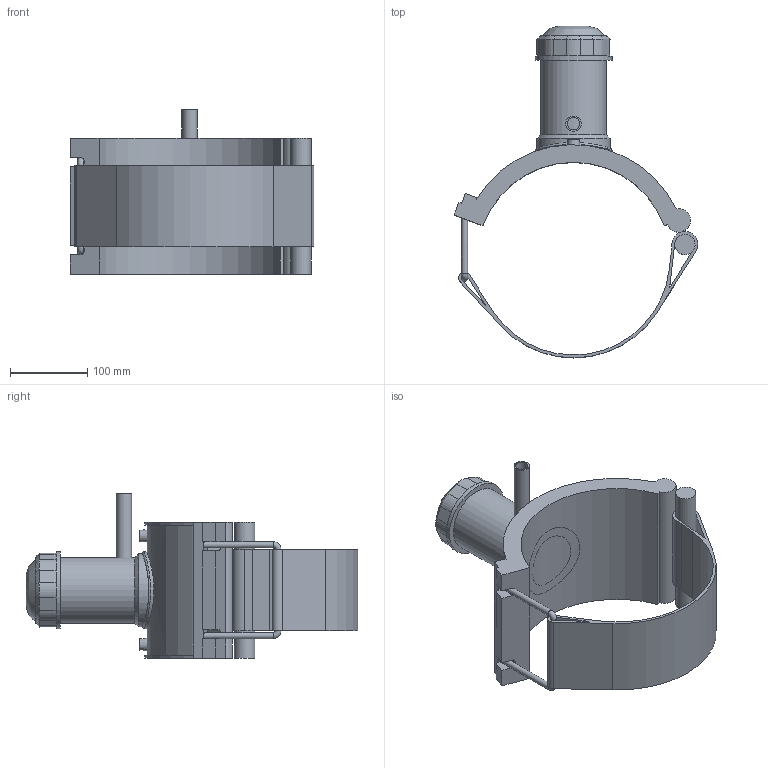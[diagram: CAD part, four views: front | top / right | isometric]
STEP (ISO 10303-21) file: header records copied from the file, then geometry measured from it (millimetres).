
FILE_DESCRIPTION(/* description */ (''),/* implementation_level */ '2;1');
FILE_NAME(/* name */ 'C:\Dropbox\KIMPROJECTS-Inventor 2019\99-16-3568-Processing\ElectroFusion Fittings\4963P4\stp\4963P4250020.stp',/* time_stamp */ '2022-03-17T11:32:56+02:00',/* author */ ('KIM'),/* organization */ (''),/* preprocessor_version */ 'ST-DEVELOPER v17.2',/* originating_system */ 'Autodesk Inventor 2019',/* authorisation */ '');
FILE_SCHEMA (('AUTOMOTIVE_DESIGN { 1 0 10303 214 3 1 1 }'));
Length unit declared in the file: millimetre
Products named in the file (1): 4963P4250020
Bounding box: 316.46 x 430.75 x 213 mm (x, y, z)
Volume: 2342113.2 mm3; surface area: 412861.1 mm2
Topology: 3 solids, 3 shells, 118 faces, 297 edges, 193 vertices
Faces by surface type: plane 65, cylinder 38, cone 11, torus 2, bspline 2
Full cylindrical faces by diameter (mm): 4 x2, 8 x2, 10 x2, 16 x1, 20 x1, 26.346 x1, 70 x1, 85 x1, 95 x1, 100 x2
Entity records: 4041 total; most frequent: CARTESIAN_POINT 1063, DIRECTION 631, ORIENTED_EDGE 596, EDGE_CURVE 298, AXIS2_PLACEMENT_3D 229, VERTEX_POINT 193, LINE 173, VECTOR 173
